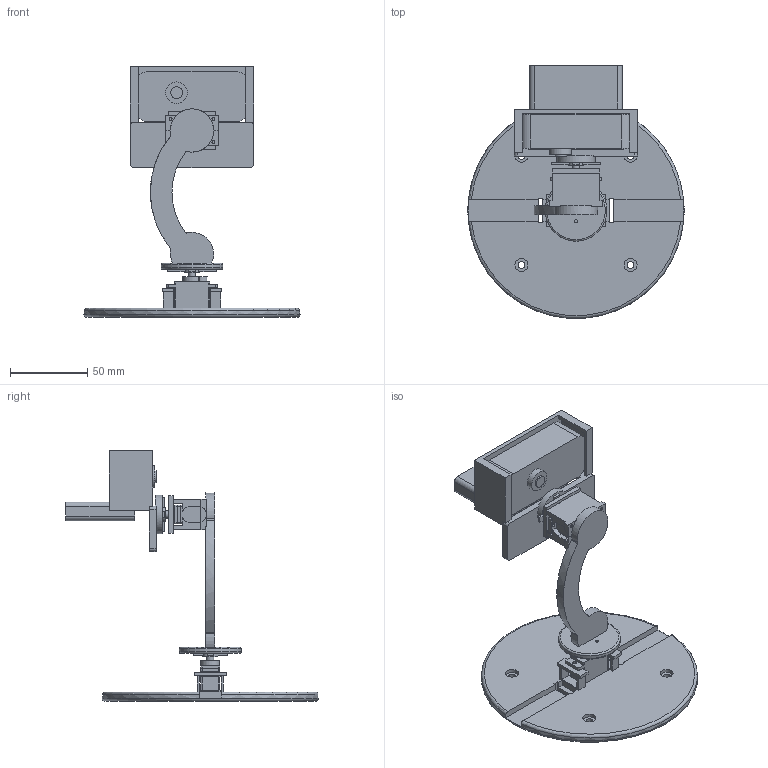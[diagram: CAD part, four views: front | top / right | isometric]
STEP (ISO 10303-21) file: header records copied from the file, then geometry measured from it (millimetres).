
FILE_DESCRIPTION(('Open CASCADE Model'),'2;1');
FILE_NAME('Open CASCADE Shape Model','2026-08-28T13:53:50',('Author'),( 'Open CASCADE'),'Open CASCADE STEP processor 7.8','Open CASCADE 7.8' ,'Unknown');
FILE_SCHEMA(('AUTOMOTIVE_DESIGN { 1 0 10303 214 1 1 1 1 }'));
Length unit declared in the file: millimetre
Products named in the file (11): C270_PanTilt_Full_Assembly_With_Servos; PanServo_StabilityBase; CurvedArm_SG90_TiltHolder; SG90_RetainingCap; Logitech_C270_ScrewlessCradle; SG90_Pan_Body; SG90_Pan_Horn; SG90_Tilt_Body; SG90_Tilt_Horn; C270_Webcam_Body; C270_Fixed_Clip
Assembly tree (10 placements, depth 2):
  C270_PanTilt_Full_Assembly_With_Servos
    PanServo_StabilityBase
    CurvedArm_SG90_TiltHolder
    SG90_RetainingCap
    Logitech_C270_ScrewlessCradle
    SG90_Pan_Body
    SG90_Pan_Horn
    SG90_Tilt_Body
    SG90_Tilt_Horn
    C270_Webcam_Body
    C270_Fixed_Clip
Bounding box: 140 x 163.64 x 162.31 mm (x, y, z)
Volume: 230075.9 mm3; surface area: 88799.6 mm2
Topology: 10 solids, 10 shells, 339 faces, 924 edges, 613 vertices
Faces by surface type: plane 229, cylinder 97, bspline 8, torus 5
Full cylindrical faces by diameter (mm): 1.8 x4, 1.9 x2, 2 x10, 2.2 x4, 2.4 x4, 3.2 x2, 4.4 x4, 4.7 x2, 7.6 x1, 8.4 x4, 9.6 x2, 14 x1, 21 x1, 25 x1, 40 x1, 140 x1
Entity records: 23745 total; most frequent: CARTESIAN_POINT 5414, DIRECTION 3219, ORIENTED_EDGE 1848, PCURVE 1848, DEFINITIONAL_REPRESENTATION 1848, LINE 1841, VECTOR 1841, EDGE_CURVE 924
